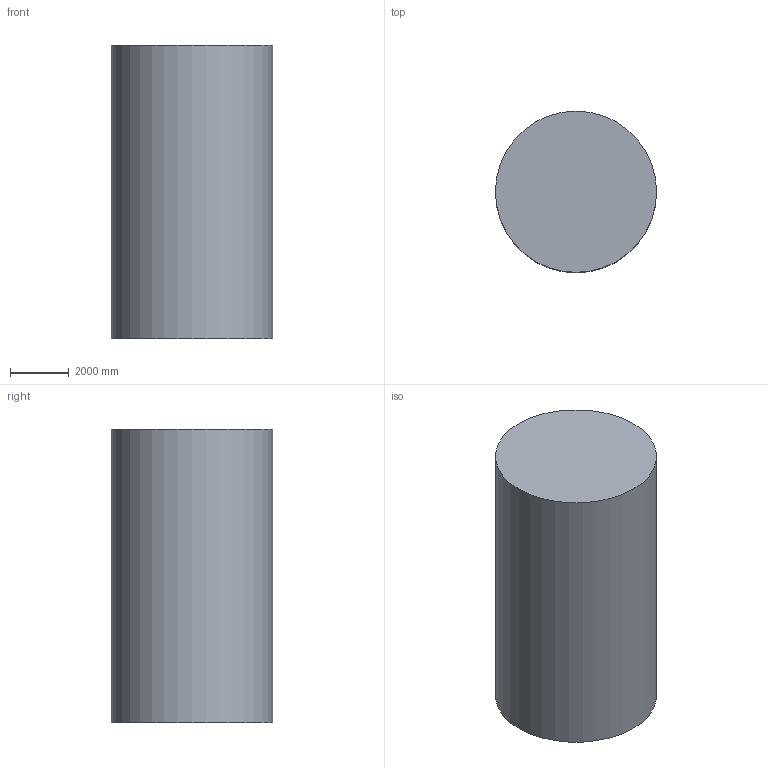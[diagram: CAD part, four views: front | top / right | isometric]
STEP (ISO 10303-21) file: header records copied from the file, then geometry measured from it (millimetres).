
FILE_DESCRIPTION(('Open CASCADE Model'),'2;1');
FILE_NAME('Open CASCADE Shape Model','2026-05-26T13:18:46',('Author'),( 'Open CASCADE'),'Open CASCADE STEP processor 7.8','build123d', 'Unknown');
FILE_SCHEMA(('AUTOMOTIVE_DESIGN { 1 0 10303 214 1 1 1 1 }'));
Length unit declared in the file: millimetre
Products named in the file (2): =>[0:1:1:2]; COMPOUND
Assembly tree (1 placements, depth 2):
  =>[0:1:1:2]
    COMPOUND
Bounding box: 5500 x 5500 x 10000 mm (x, y, z)
Volume: 237582944427.7 mm3; surface area: 220304184.8 mm2
Topology: 1 solids, 1 shells, 3 faces, 3 edges, 2 vertices
Faces by surface type: plane 2, cylinder 1
Full cylindrical faces by diameter (mm): 5500 x1
Entity records: 126 total; most frequent: DIRECTION 21, CARTESIAN_POINT 16, AXIS2_PLACEMENT_3D 7, ORIENTED_EDGE 6, PCURVE 6, DEFINITIONAL_REPRESENTATION 6, LINE 5, VECTOR 5
